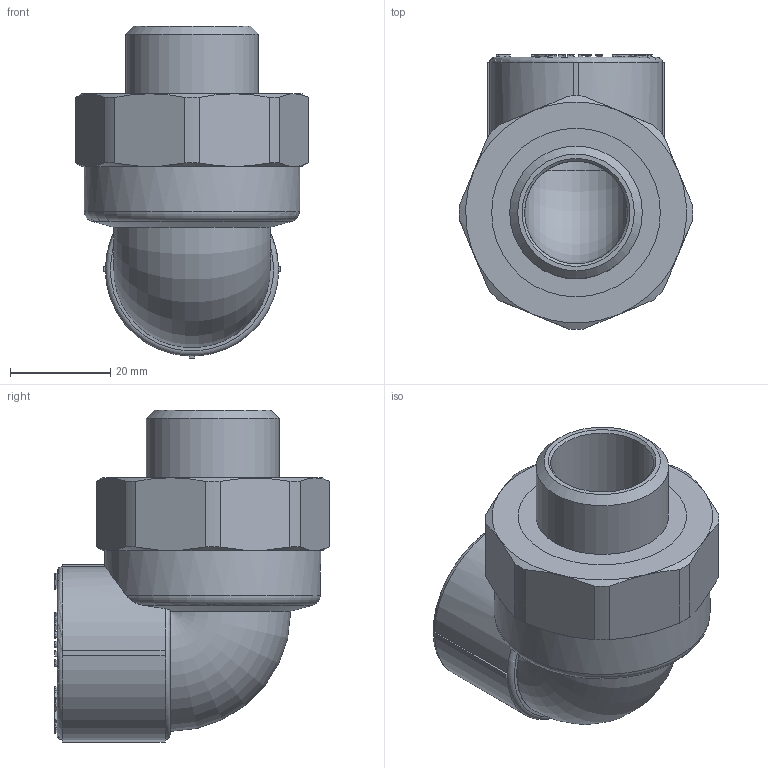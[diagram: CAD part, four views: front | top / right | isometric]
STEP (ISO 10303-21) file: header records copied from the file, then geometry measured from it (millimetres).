
FILE_DESCRIPTION(('STEP AP203'), '1');
FILE_NAME('ÂÐ.752212.039 - VTp.753.0.02505', '', ('UNSPECIFIED'), ('UNSPECIFIED'), 'C3D Converter', 'C3D Toolkit', '');
FILE_SCHEMA(('CONFIG_CONTROL_DESIGN'));
Length unit declared in the file: millimetre
Products named in the file (4): ВР.752212.039; ВР.302639.012.000; ВР.713751.002
Assembly tree (3 placements, depth 3):
  ВР.752212.039
    ВР.302639.012.000
      ВР.713751.002
      (unnamed)
Bounding box: 46.49 x 54.74 x 66.15 mm (x, y, z)
Volume: 50241.1 mm3; surface area: 24775.9 mm2
Topology: 3 solids, 3 shells, 683 faces, 1889 edges, 1247 vertices
Faces by surface type: extrusion 320, plane 305, cylinder 37, torus 11, cone 10
Full cylindrical faces by diameter (mm): 20.5 x3, 23 x2, 26.441 x1, 26.6 x2, 29.6 x6, 33.6 x8, 43 x1
Entity records: 22956 total; most frequent: CARTESIAN_POINT 6758, ORIENTED_EDGE 3650, DIRECTION 2360, EDGE_CURVE 1825, VECTOR 1324, VERTEX_POINT 1231, LINE 1004, B_SPLINE_CURVE_WITH_KNOTS 990
